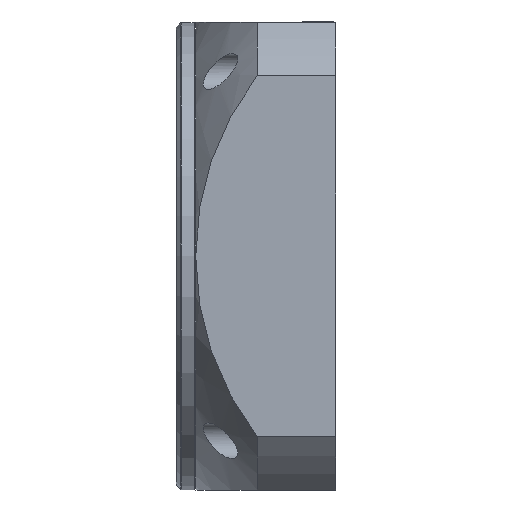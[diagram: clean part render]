
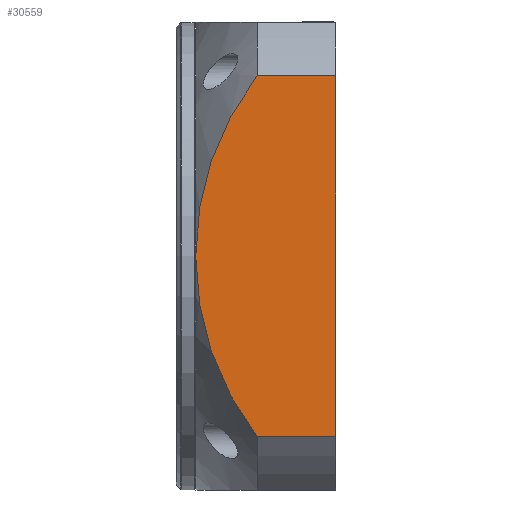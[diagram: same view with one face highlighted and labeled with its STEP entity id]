
A CAD part, left-side view. The second image highlights one B-rep face of the part: STEP entity #30559.
In plain terms, the highlighted planar face has unit normal (-1, 0, 0).
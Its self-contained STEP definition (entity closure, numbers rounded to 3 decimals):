
#123 = EDGE_CURVE ( 'NONE', #38433, #34117, #23973, .T. ) ;
#1268 = FACE_OUTER_BOUND ( 'NONE', #31932, .T. ) ;
#1782 = CARTESIAN_POINT ( 'NONE',  ( -95., 32., 73.314 ) ) ;
#2404 = EDGE_CURVE ( 'NONE', #28776, #31605, #13689, .T. ) ;
#3807 = CARTESIAN_POINT ( 'NONE',  ( -95., 0., 0. ) ) ;
#4058 = CARTESIAN_POINT ( 'NONE',  ( -95., 0., -73.314 ) ) ;
#4891 = LINE ( 'NONE', #11579, #17414 ) ;
#6945 = CARTESIAN_POINT ( 'NONE',  ( -95., 0., 73.314 ) ) ;
#8315 = CIRCLE ( 'NONE', #26886, 120. ) ;
#8408 = CIRCLE ( 'NONE', #22569, 120. ) ;
#9708 = VECTOR ( 'NONE', #16688, 1000. ) ;
#10750 = ORIENTED_EDGE ( 'NONE', *, *, #35886, .F. ) ;
#11579 = CARTESIAN_POINT ( 'NONE',  ( -95., 0., 0. ) ) ;
#13032 = DIRECTION ( 'NONE',  ( -1., 0., 0. ) ) ;
#13143 = DIRECTION ( 'NONE',  ( 1., 0., 0. ) ) ;
#13689 = LINE ( 'NONE', #15375, #9708 ) ;
#14674 = DIRECTION ( 'NONE',  ( 0., 0., 1. ) ) ;
#15375 = CARTESIAN_POINT ( 'NONE',  ( -95., 0., 73.314 ) ) ;
#15998 = DIRECTION ( 'NONE',  ( 1., 0., 0. ) ) ;
#16688 = DIRECTION ( 'NONE',  ( 0., 1., 0. ) ) ;
#17414 = VECTOR ( 'NONE', #14674, 1000. ) ;
#18980 = CARTESIAN_POINT ( 'NONE',  ( -95., 57., 0. ) ) ;
#19464 = EDGE_CURVE ( 'NONE', #38433, #28776, #4891, .T. ) ;
#20846 = EDGE_CURVE ( 'NONE', #37935, #31605, #8315, .T. ) ;
#22569 = AXIS2_PLACEMENT_3D ( 'NONE', #34240, #15998, #37266 ) ;
#23973 = LINE ( 'NONE', #33408, #36809 ) ;
#25487 = ORIENTED_EDGE ( 'NONE', *, *, #20846, .F. ) ;
#26886 = AXIS2_PLACEMENT_3D ( 'NONE', #31402, #13143, #34437 ) ;
#27102 = ORIENTED_EDGE ( 'NONE', *, *, #123, .F. ) ;
#28172 = PLANE ( 'NONE',  #37842 ) ;
#28776 = VERTEX_POINT ( 'NONE', #6945 ) ;
#29256 = DIRECTION ( 'NONE',  ( 0., 1., 0. ) ) ;
#30559 = ADVANCED_FACE ( 'NONE', ( #1268 ), #28172, .T. ) ;
#31402 = CARTESIAN_POINT ( 'NONE',  ( -95., -63., 0. ) ) ;
#31605 = VERTEX_POINT ( 'NONE', #1782 ) ;
#31932 = EDGE_LOOP ( 'NONE', ( #27102, #35455, #38734, #25487, #10750 ) ) ;
#33408 = CARTESIAN_POINT ( 'NONE',  ( -95., 0., -73.314 ) ) ;
#34117 = VERTEX_POINT ( 'NONE', #35850 ) ;
#34240 = CARTESIAN_POINT ( 'NONE',  ( -95., -63., 0. ) ) ;
#34315 = DIRECTION ( 'NONE',  ( 0., 0., 1. ) ) ;
#34437 = DIRECTION ( 'NONE',  ( 0., 0., 1. ) ) ;
#35455 = ORIENTED_EDGE ( 'NONE', *, *, #19464, .T. ) ;
#35850 = CARTESIAN_POINT ( 'NONE',  ( -95., 32., -73.314 ) ) ;
#35886 = EDGE_CURVE ( 'NONE', #34117, #37935, #8408, .T. ) ;
#36809 = VECTOR ( 'NONE', #29256, 1000. ) ;
#37266 = DIRECTION ( 'NONE',  ( 0., 0., 1. ) ) ;
#37842 = AXIS2_PLACEMENT_3D ( 'NONE', #3807, #13032, #34315 ) ;
#37935 = VERTEX_POINT ( 'NONE', #18980 ) ;
#38433 = VERTEX_POINT ( 'NONE', #4058 ) ;
#38734 = ORIENTED_EDGE ( 'NONE', *, *, #2404, .T. ) ;
